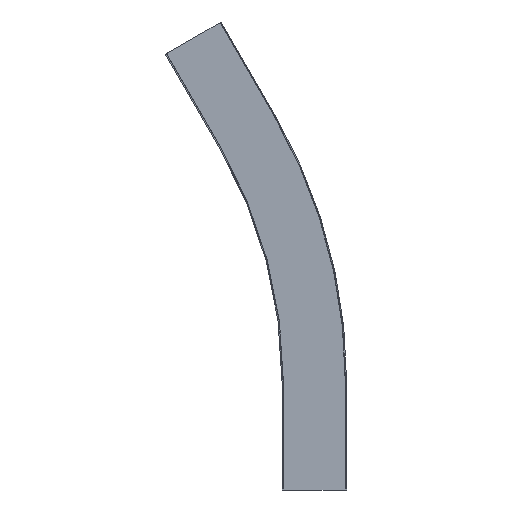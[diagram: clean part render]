
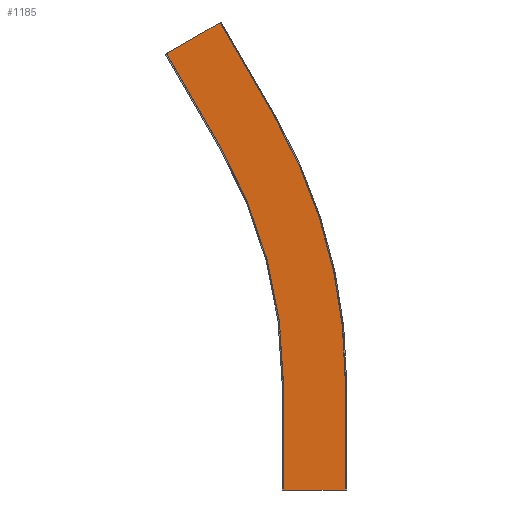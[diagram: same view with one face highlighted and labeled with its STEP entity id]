
A CAD part, front view. The second image highlights one B-rep face of the part: STEP entity #1185.
In plain terms, the highlighted planar face has unit normal (0, -1, 0).
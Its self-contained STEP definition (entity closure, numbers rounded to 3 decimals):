
#64 = CARTESIAN_POINT ( 'NONE',  ( -131.151, -42., 478.425 ) ) ;
#70 = CARTESIAN_POINT ( 'NONE',  ( 43.15, -42., 0. ) ) ;
#90 = CARTESIAN_POINT ( 'NONE',  ( -43.15, -42., 0. ) ) ;
#101 = CARTESIAN_POINT ( 'NONE',  ( -131.413, -42., 651.479 ) ) ;
#194 = CARTESIAN_POINT ( 'NONE',  ( -56.413, -42., 521.575 ) ) ;
#199 = DIRECTION ( 'NONE',  ( -0.5, 0., 0.866 ) ) ;
#259 = CARTESIAN_POINT ( 'NONE',  ( -700., -42., 150. ) ) ;
#260 = DIRECTION ( 'NONE',  ( 0., -1., 0. ) ) ;
#261 = DIRECTION ( 'NONE',  ( 0., 0., -1. ) ) ;
#273 = CARTESIAN_POINT ( 'NONE',  ( -700., -42., 150. ) ) ;
#274 = DIRECTION ( 'NONE',  ( 0., -1., 0. ) ) ;
#275 = DIRECTION ( 'NONE',  ( 0., 0., -1. ) ) ;
#369 = CARTESIAN_POINT ( 'NONE',  ( -131.151, -42., 478.425 ) ) ;
#374 = DIRECTION ( 'NONE',  ( -0.5, 0., 0.866 ) ) ;
#487 = CARTESIAN_POINT ( 'NONE',  ( -43.15, -42., 0. ) ) ;
#768 = DIRECTION ( 'NONE',  ( 1., 0., 0. ) ) ;
#769 = DIRECTION ( 'NONE',  ( 0., -1., 0. ) ) ;
#771 = PLANE ( 'NONE',  #1425 ) ;
#773 = CARTESIAN_POINT ( 'NONE',  ( -43.15, -42., 150. ) ) ;
#929 = CARTESIAN_POINT ( 'NONE',  ( -56.413, -42., 521.575 ) ) ;
#1022 = DIRECTION ( 'NONE',  ( -0.866, 0., -0.5 ) ) ;
#1023 = DIRECTION ( 'NONE',  ( 0., 0., -1. ) ) ;
#1031 = CARTESIAN_POINT ( 'NONE',  ( 43.15, -42., 150. ) ) ;
#1038 = DIRECTION ( 'NONE',  ( -1., 0., 0. ) ) ;
#1039 = DIRECTION ( 'NONE',  ( 0., 0., -1. ) ) ;
#1041 = CARTESIAN_POINT ( 'NONE',  ( -43.15, -42., 150. ) ) ;
#1052 = CARTESIAN_POINT ( 'NONE',  ( -206.151, -42., 608.329 ) ) ;
#1066 = CARTESIAN_POINT ( 'NONE',  ( 43.15, -42., 150. ) ) ;
#1083 = CARTESIAN_POINT ( 'NONE',  ( -206.151, -42., 608.329 ) ) ;
#1103 = CARTESIAN_POINT ( 'NONE',  ( -43.15, -42., 150. ) ) ;
#1185 = ADVANCED_FACE ( 'NONE', ( #2075 ), #771, .T. ) ;
#1263 = EDGE_CURVE ( 'NONE', #2362, #2565, #1964, .T. ) ;
#1264 = EDGE_CURVE ( 'NONE', #2535, #2565, #1966, .T. ) ;
#1265 = EDGE_CURVE ( 'NONE', #2425, #2535, #1960, .T. ) ;
#1266 = EDGE_CURVE ( 'NONE', #2597, #2405, #1962, .T. ) ;
#1333 = AXIS2_PLACEMENT_3D ( 'NONE', #273, #274, #275 ) ;
#1336 = AXIS2_PLACEMENT_3D ( 'NONE', #259, #260, #261 ) ;
#1425 = AXIS2_PLACEMENT_3D ( 'NONE', #773, #769, #768 ) ;
#1662 = VECTOR ( 'NONE', #374, 1000. ) ;
#1667 = LINE ( 'NONE', #369, #1662 ) ;
#1729 = CIRCLE ( 'NONE', #1333, 656.85 ) ;
#1738 = CIRCLE ( 'NONE', #1336, 743.15 ) ;
#1783 = VECTOR ( 'NONE', #199, 1000. ) ;
#1788 = LINE ( 'NONE', #194, #1783 ) ;
#1955 = VECTOR ( 'NONE', #1022, 1000. ) ;
#1957 = VECTOR ( 'NONE', #1023, 1000. ) ;
#1959 = VECTOR ( 'NONE', #1038, 1000. ) ;
#1960 = LINE ( 'NONE', #1031, #1957 ) ;
#1961 = VECTOR ( 'NONE', #1039, 1000. ) ;
#1962 = LINE ( 'NONE', #1052, #1955 ) ;
#1964 = LINE ( 'NONE', #1041, #1961 ) ;
#1966 = LINE ( 'NONE', #487, #1959 ) ;
#2075 = FACE_OUTER_BOUND ( 'NONE', #2869, .T. ) ;
#2362 = VERTEX_POINT ( 'NONE', #1103 ) ;
#2405 = VERTEX_POINT ( 'NONE', #1083 ) ;
#2425 = VERTEX_POINT ( 'NONE', #1066 ) ;
#2459 = VERTEX_POINT ( 'NONE', #929 ) ;
#2509 = ORIENTED_EDGE ( 'NONE', *, *, #3068, .F. ) ;
#2513 = ORIENTED_EDGE ( 'NONE', *, *, #1264, .F. ) ;
#2534 = VERTEX_POINT ( 'NONE', #64 ) ;
#2535 = VERTEX_POINT ( 'NONE', #70 ) ;
#2565 = VERTEX_POINT ( 'NONE', #90 ) ;
#2597 = VERTEX_POINT ( 'NONE', #101 ) ;
#2739 = ORIENTED_EDGE ( 'NONE', *, *, #3021, .T. ) ;
#2742 = ORIENTED_EDGE ( 'NONE', *, *, #3027, .F. ) ;
#2842 = ORIENTED_EDGE ( 'NONE', *, *, #2994, .T. ) ;
#2845 = ORIENTED_EDGE ( 'NONE', *, *, #1266, .T. ) ;
#2852 = ORIENTED_EDGE ( 'NONE', *, *, #1263, .T. ) ;
#2862 = ORIENTED_EDGE ( 'NONE', *, *, #1265, .F. ) ;
#2869 = EDGE_LOOP ( 'NONE', ( #2513, #2862, #2739, #2842, #2845, #2509, #2742, #2852 ) ) ;
#2994 = EDGE_CURVE ( 'Edge42', #2459, #2597, #1788, .T. ) ;
#3021 = EDGE_CURVE ( 'Edge18', #2425, #2459, #1738, .T. ) ;
#3027 = EDGE_CURVE ( 'NONE', #2362, #2534, #1729, .T. ) ;
#3068 = EDGE_CURVE ( 'NONE', #2534, #2405, #1667, .T. ) ;
